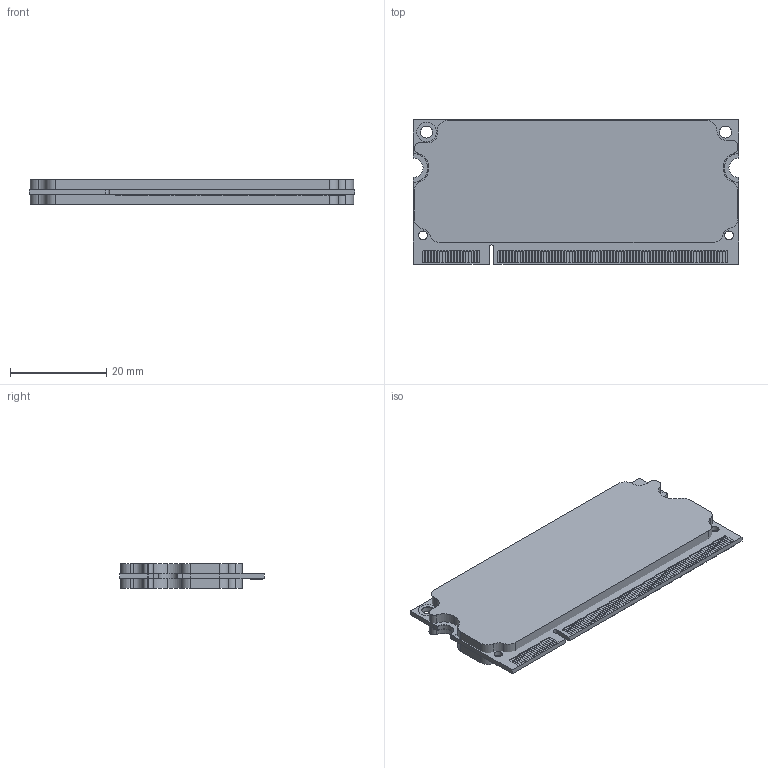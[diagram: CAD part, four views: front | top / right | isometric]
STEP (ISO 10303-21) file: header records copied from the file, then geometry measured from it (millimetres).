
FILE_DESCRIPTION(('CATIA V5 STEP Exchange'),'2;1');
FILE_NAME('\\server-nufotec\Projekt-Kunder\Embedded-Artists\Temp\2019-10-16\163415-934-IMX-RT10X2-OEM-BOARD-REV-B1-ASSY-2019-10-16.stp','2019-10-16T05:59:39+00:00',('none'),('none'),'CATIA Version 5 Release 19 GA (IN-10)','CATIA V5 STEP AP214','none');
FILE_SCHEMA(('AUTOMOTIVE_DESIGN { 1 0 10303 214 1 1 1 1 }'));
Length unit declared in the file: millimetre
Products named in the file (1): 163415-934-IMX-RT10X2-OEM-BOARD-REV-B1-ASSY-2019-10-16
Bounding box: 67.6 x 30 x 5 mm (x, y, z)
Volume: 10224.1 mm3; surface area: 9560.8 mm2
Topology: 7 solids, 7 shells, 1118 faces, 3430 edges, 2326 vertices
Faces by surface type: plane 837, cylinder 281
Entity records: 35437 total; most frequent: ORIENTED_EDGE 6860, CARTESIAN_POINT 6420, DIRECTION 4756, EDGE_CURVE 3430, VERTEX_POINT 2326, VECTOR 2156, LINE 2156, AXIS2_PLACEMENT_3D 1938
